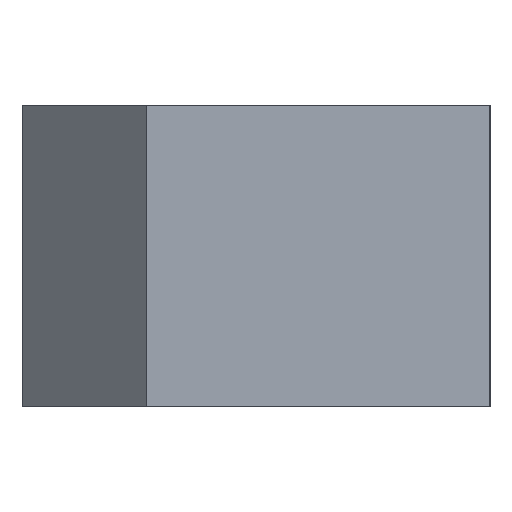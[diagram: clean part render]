
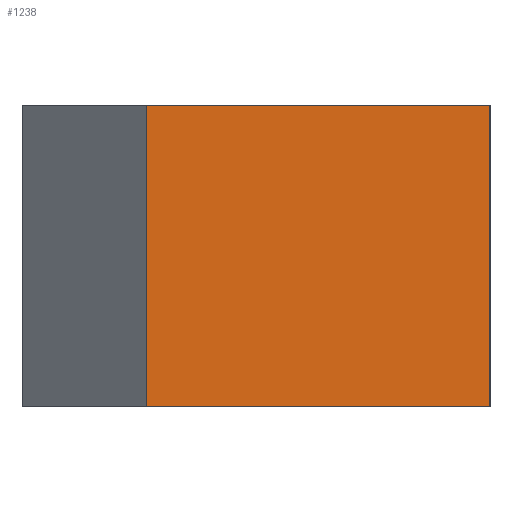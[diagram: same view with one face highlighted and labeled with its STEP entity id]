
A CAD part, left-side view. The second image highlights one B-rep face of the part: STEP entity #1238.
In plain terms, the highlighted planar face has unit normal (-1, 0, 0).
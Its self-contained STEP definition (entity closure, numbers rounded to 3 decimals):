
#26 = ORIENTED_EDGE ( 'NONE', *, *, #1560, .T. ) ;
#29 = DIRECTION ( 'NONE',  ( 0., -1., 0. ) ) ;
#91 = DIRECTION ( 'NONE',  ( 0., 0., -1. ) ) ;
#114 = VERTEX_POINT ( 'NONE', #1148 ) ;
#143 = CARTESIAN_POINT ( 'NONE',  ( -43., 62., -20. ) ) ;
#154 = DIRECTION ( 'NONE',  ( 0., -1., 0. ) ) ;
#158 = ORIENTED_EDGE ( 'NONE', *, *, #192, .F. ) ;
#192 = EDGE_CURVE ( 'NONE', #1113, #1625, #233, .T. ) ;
#233 = LINE ( 'NONE', #935, #1586 ) ;
#491 = AXIS2_PLACEMENT_3D ( 'NONE', #605, #988, #91 ) ;
#507 = ORIENTED_EDGE ( 'NONE', *, *, #862, .T. ) ;
#520 = CARTESIAN_POINT ( 'NONE',  ( -43., 0., 20. ) ) ;
#560 = VECTOR ( 'NONE', #1339, 1000. ) ;
#605 = CARTESIAN_POINT ( 'NONE',  ( -43., 62., 20. ) ) ;
#676 = EDGE_LOOP ( 'NONE', ( #158, #926, #507, #26 ) ) ;
#727 = LINE ( 'NONE', #143, #1125 ) ;
#862 = EDGE_CURVE ( 'NONE', #1227, #114, #727, .T. ) ;
#877 = EDGE_CURVE ( 'NONE', #1227, #1113, #1559, .T. ) ;
#926 = ORIENTED_EDGE ( 'NONE', *, *, #877, .F. ) ;
#935 = CARTESIAN_POINT ( 'NONE',  ( -43., 62., 20. ) ) ;
#988 = DIRECTION ( 'NONE',  ( 1., 0., 0. ) ) ;
#989 = FACE_OUTER_BOUND ( 'NONE', #676, .T. ) ;
#1091 = PLANE ( 'NONE',  #491 ) ;
#1113 = VERTEX_POINT ( 'NONE', #1232 ) ;
#1125 = VECTOR ( 'NONE', #29, 1000. ) ;
#1148 = CARTESIAN_POINT ( 'NONE',  ( -43., 0., -20. ) ) ;
#1159 = CARTESIAN_POINT ( 'NONE',  ( -43., 0., 20. ) ) ;
#1227 = VERTEX_POINT ( 'NONE', #1356 ) ;
#1232 = CARTESIAN_POINT ( 'NONE',  ( -43., 45.5, 20. ) ) ;
#1238 = ADVANCED_FACE ( 'NONE', ( #989 ), #1091, .F. ) ;
#1323 = CARTESIAN_POINT ( 'NONE',  ( -43., 45.5, -20. ) ) ;
#1339 = DIRECTION ( 'NONE',  ( 0., 0., 1. ) ) ;
#1356 = CARTESIAN_POINT ( 'NONE',  ( -43., 45.5, -20. ) ) ;
#1423 = LINE ( 'NONE', #520, #1636 ) ;
#1559 = LINE ( 'NONE', #1323, #560 ) ;
#1560 = EDGE_CURVE ( 'NONE', #114, #1625, #1423, .T. ) ;
#1585 = DIRECTION ( 'NONE',  ( 0., 0., 1. ) ) ;
#1586 = VECTOR ( 'NONE', #154, 1000. ) ;
#1625 = VERTEX_POINT ( 'NONE', #1159 ) ;
#1636 = VECTOR ( 'NONE', #1585, 1000. ) ;
